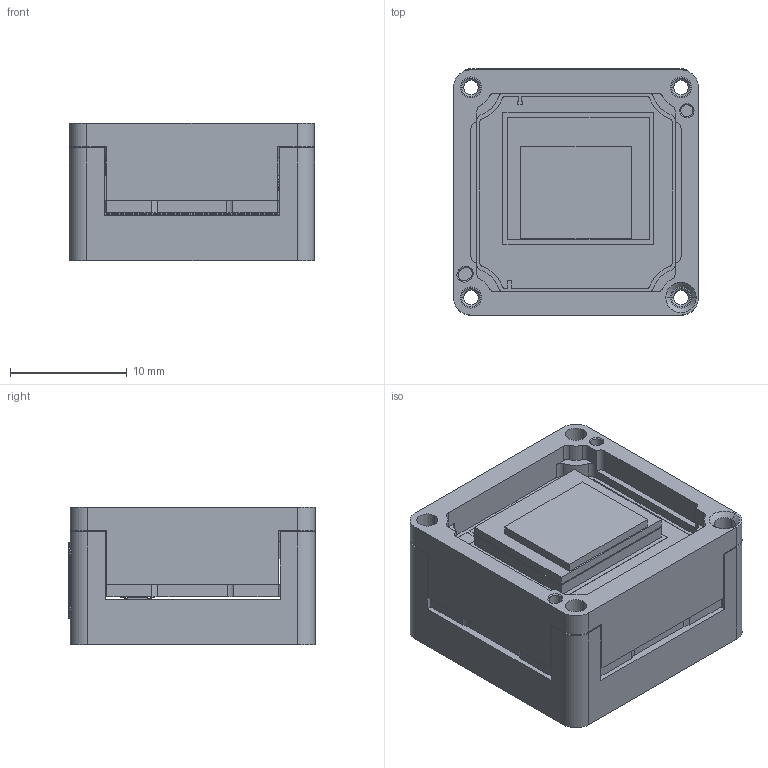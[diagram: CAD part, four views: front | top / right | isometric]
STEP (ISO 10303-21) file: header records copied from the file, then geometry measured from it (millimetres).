
FILE_DESCRIPTION (( 'STEP AP214' ), '1' );
FILE_NAME ('21-Boson 640, LC 9Hz.STEP', '2016-11-08T21:50:25', ( '' ), ( '' ), 'SwSTEP 2.0', 'SolidWorks 2016', '' );
FILE_SCHEMA (( 'AUTOMOTIVE_DESIGN' ));
Length unit declared in the file: millimetre
Products named in the file (5): Label, Boson Camera 9Hz; PCBA Boson Main; Boson Frame, Main Board; Sensor Module, Boson 640; 21-Boson 640, LC 9Hz
Assembly tree (4 placements, depth 2):
  21-Boson 640, LC 9Hz
    Sensor Module, Boson 640
    Boson Frame, Main Board
    PCBA Boson Main
    Label, Boson Camera 9Hz
Bounding box: 21 x 21.11 x 11.75 mm (x, y, z)
Volume: 2488.6 mm3; surface area: 5736.8 mm2
Topology: 9 solids, 9 shells, 2366 faces, 6613 edges, 4383 vertices
Faces by surface type: plane 1665, cylinder 520, bspline 140, cone 29, torus 7, sphere 5
Entity records: 106385 total; most frequent: CARTESIAN_POINT 19291, ORIENTED_EDGE 13216, DIRECTION 11801, EDGE_CURVE 6608, VECTOR 5219, LINE 5219, VERTEX_POINT 4381, AXIS2_PLACEMENT_3D 3291
